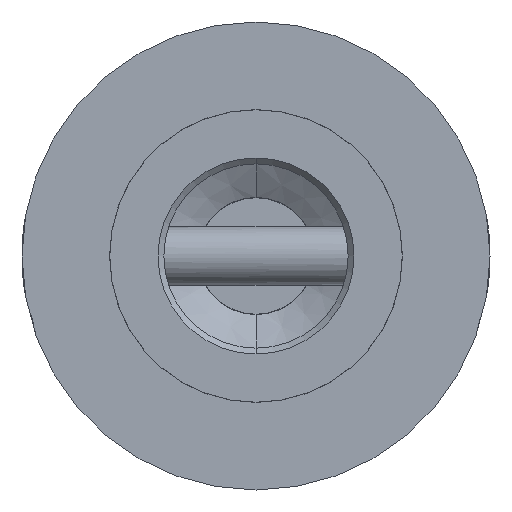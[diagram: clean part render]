
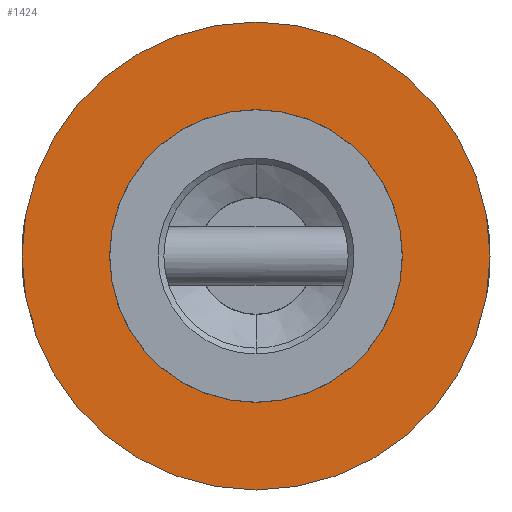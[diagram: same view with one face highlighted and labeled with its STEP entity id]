
A CAD part, front view. The second image highlights one B-rep face of the part: STEP entity #1424.
In plain terms, the highlighted planar face has unit normal (0, -1, 0).
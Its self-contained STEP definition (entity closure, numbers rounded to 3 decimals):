
#14 = DIRECTION ( 'NONE',  ( 0., 0., -1. ) ) ;
#24 = EDGE_LOOP ( 'NONE', ( #2835, #3086 ) ) ;
#34 = DIRECTION ( 'NONE',  ( 0., -1., 0. ) ) ;
#43 = CARTESIAN_POINT ( 'NONE',  ( 0., -300., 0. ) ) ;
#364 = DIRECTION ( 'NONE',  ( 0., 0., -1. ) ) ;
#378 = DIRECTION ( 'NONE',  ( 0., -1., 0. ) ) ;
#393 = VERTEX_POINT ( 'NONE', #2353 ) ;
#402 = CARTESIAN_POINT ( 'NONE',  ( 0., -300., 0. ) ) ;
#413 = EDGE_LOOP ( 'NONE', ( #2527, #2607 ) ) ;
#434 = EDGE_CURVE ( 'NONE', #2366, #1868, #2173, .T. ) ;
#523 = EDGE_CURVE ( 'NONE', #2400, #393, #2778, .T. ) ;
#606 = PLANE ( 'NONE',  #2653 ) ;
#693 = EDGE_CURVE ( 'NONE', #1868, #2366, #2625, .T. ) ;
#1031 = DIRECTION ( 'NONE',  ( 0., 0., -1. ) ) ;
#1050 = DIRECTION ( 'NONE',  ( 0., -1., 0. ) ) ;
#1061 = CARTESIAN_POINT ( 'NONE',  ( 0., -300., 0. ) ) ;
#1173 = FACE_OUTER_BOUND ( 'NONE', #24, .T. ) ;
#1424 = ADVANCED_FACE ( 'NONE', ( #3156, #1173 ), #606, .T. ) ;
#1529 = AXIS2_PLACEMENT_3D ( 'NONE', #43, #34, #14 ) ;
#1539 = CARTESIAN_POINT ( 'NONE',  ( 0., -300., 8. ) ) ;
#1594 = CARTESIAN_POINT ( 'NONE',  ( 0., -300., -8. ) ) ;
#1651 = DIRECTION ( 'NONE',  ( 0., 0., -1. ) ) ;
#1681 = DIRECTION ( 'NONE',  ( 0., -1., 0. ) ) ;
#1868 = VERTEX_POINT ( 'NONE', #1594 ) ;
#1898 = DIRECTION ( 'NONE',  ( 0., 0., -1. ) ) ;
#1943 = DIRECTION ( 'NONE',  ( 0., -1., 0. ) ) ;
#1954 = CARTESIAN_POINT ( 'NONE',  ( 0., -300., 0. ) ) ;
#2103 = EDGE_CURVE ( 'NONE', #393, #2400, #3095, .T. ) ;
#2173 = CIRCLE ( 'NONE', #2830, 8. ) ;
#2353 = CARTESIAN_POINT ( 'NONE',  ( 0., -300., -5.005 ) ) ;
#2366 = VERTEX_POINT ( 'NONE', #1539 ) ;
#2370 = AXIS2_PLACEMENT_3D ( 'NONE', #402, #378, #364 ) ;
#2400 = VERTEX_POINT ( 'NONE', #3173 ) ;
#2527 = ORIENTED_EDGE ( 'NONE', *, *, #2103, .F. ) ;
#2607 = ORIENTED_EDGE ( 'NONE', *, *, #523, .F. ) ;
#2625 = CIRCLE ( 'NONE', #1529, 8. ) ;
#2653 = AXIS2_PLACEMENT_3D ( 'NONE', #3186, #1681, #1651 ) ;
#2778 = CIRCLE ( 'NONE', #3300, 5.005 ) ;
#2830 = AXIS2_PLACEMENT_3D ( 'NONE', #1954, #1943, #1898 ) ;
#2835 = ORIENTED_EDGE ( 'NONE', *, *, #693, .T. ) ;
#3086 = ORIENTED_EDGE ( 'NONE', *, *, #434, .T. ) ;
#3095 = CIRCLE ( 'NONE', #2370, 5.005 ) ;
#3156 = FACE_BOUND ( 'NONE', #413, .T. ) ;
#3173 = CARTESIAN_POINT ( 'NONE',  ( 0., -300., 5.005 ) ) ;
#3186 = CARTESIAN_POINT ( 'NONE',  ( 0., -300., 0. ) ) ;
#3300 = AXIS2_PLACEMENT_3D ( 'NONE', #1061, #1050, #1031 ) ;
